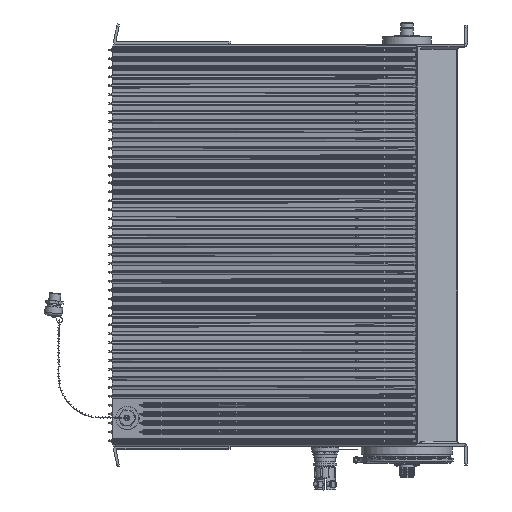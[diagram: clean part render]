
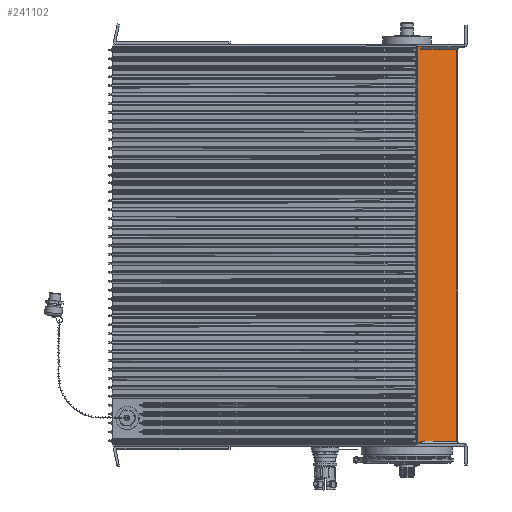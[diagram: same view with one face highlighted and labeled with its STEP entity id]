
A CAD part, top view. The second image highlights one B-rep face of the part: STEP entity #241102.
In plain terms, the highlighted planar face has unit normal (0.609, 0, 0.793).
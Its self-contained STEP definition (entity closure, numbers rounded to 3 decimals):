
#24600=ORIENTED_EDGE('',*,*,#66720,.T.);
#24601=ORIENTED_EDGE('',*,*,#66721,.F.);
#24602=ORIENTED_EDGE('',*,*,#66722,.T.);
#24603=ORIENTED_EDGE('',*,*,#57932,.T.);
#24604=ORIENTED_EDGE('',*,*,#66697,.T.);
#24605=ORIENTED_EDGE('',*,*,#66723,.T.);
#24606=ORIENTED_EDGE('',*,*,#57949,.T.);
#24607=ORIENTED_EDGE('',*,*,#66644,.T.);
#24608=ORIENTED_EDGE('',*,*,#66648,.T.);
#24609=ORIENTED_EDGE('',*,*,#65992,.F.);
#24610=ORIENTED_EDGE('',*,*,#65995,.T.);
#24611=ORIENTED_EDGE('',*,*,#66673,.T.);
#57932=EDGE_CURVE('',#83230,#83229,#100379,.T.);
#57949=EDGE_CURVE('',#83247,#83246,#100393,.T.);
#65992=EDGE_CURVE('',#88620,#88621,#108261,.T.);
#65995=EDGE_CURVE('',#88620,#88622,#108264,.T.);
#66644=EDGE_CURVE('',#83246,#89232,#108727,.T.);
#66648=EDGE_CURVE('',#89232,#88621,#108731,.T.);
#66673=EDGE_CURVE('',#88622,#89249,#108754,.T.);
#66697=EDGE_CURVE('',#83229,#89264,#108771,.T.);
#66720=EDGE_CURVE('',#89249,#89274,#108787,.T.);
#66721=EDGE_CURVE('',#89275,#89274,#108788,.T.);
#66722=EDGE_CURVE('',#89275,#83230,#108789,.T.);
#66723=EDGE_CURVE('',#89264,#83247,#108790,.T.);
#83229=VERTEX_POINT('',#304175);
#83230=VERTEX_POINT('',#304177);
#83246=VERTEX_POINT('',#304210);
#83247=VERTEX_POINT('',#304212);
#88620=VERTEX_POINT('',#320676);
#88621=VERTEX_POINT('',#320678);
#88622=VERTEX_POINT('',#320682);
#89232=VERTEX_POINT('',#321972);
#89249=VERTEX_POINT('',#322031);
#89264=VERTEX_POINT('',#322078);
#89274=VERTEX_POINT('',#322121);
#89275=VERTEX_POINT('',#322123);
#100379=LINE('',#304176,#121862);
#100393=LINE('',#304211,#121876);
#108261=LINE('',#320677,#129744);
#108264=LINE('',#320683,#129747);
#108727=LINE('',#321973,#130210);
#108731=LINE('',#321980,#130214);
#108754=LINE('',#322032,#130237);
#108771=LINE('',#322079,#130254);
#108787=LINE('',#322120,#130270);
#108788=LINE('',#322122,#130271);
#108789=LINE('',#322124,#130272);
#108790=LINE('',#322125,#130273);
#121862=VECTOR('',#259318,1000.);
#121876=VECTOR('',#259340,1000.);
#129744=VECTOR('',#273044,1000.);
#129747=VECTOR('',#273049,1000.);
#130210=VECTOR('',#273946,1000.);
#130214=VECTOR('',#273954,1000.);
#130237=VECTOR('',#274003,1000.);
#130254=VECTOR('',#274050,1000.);
#130270=VECTOR('',#274098,1000.);
#130271=VECTOR('',#274099,1000.);
#130272=VECTOR('',#274100,1000.);
#130273=VECTOR('',#274101,1000.);
#146225=EDGE_LOOP('',(#24600,#24601,#24602,#24603,#24604,#24605,#24606,
#24607,#24608,#24609,#24610,#24611));
#156830=FACE_BOUND('',#146225,.T.);
#166946=PLANE('',#251035);
#241102=ADVANCED_FACE('',(#156830),#166946,.T.);
#251035=AXIS2_PLACEMENT_3D('',#322119,#274096,#274097);
#259318=DIRECTION('',(-0.793,0.,0.609));
#259340=DIRECTION('',(0.793,0.,-0.609));
#273044=DIRECTION('',(0.,-1.,0.));
#273049=DIRECTION('',(0.793,0.,-0.609));
#273946=DIRECTION('',(0.,1.,0.));
#273954=DIRECTION('',(0.793,0.,-0.609));
#274003=DIRECTION('',(0.,1.,0.));
#274050=DIRECTION('',(0.,-1.,0.));
#274096=DIRECTION('',(0.609,0.,0.793));
#274097=DIRECTION('',(0.793,0.,-0.609));
#274098=DIRECTION('',(-0.793,0.,0.609));
#274099=DIRECTION('',(0.,-1.,0.));
#274100=DIRECTION('',(-0.793,0.,0.609));
#274101=DIRECTION('',(0.793,0.,-0.609));
#304175=CARTESIAN_POINT('',(-59.11,493.014,132.341));
#304176=CARTESIAN_POINT('',(-9.995,493.014,94.654));
#304177=CARTESIAN_POINT('',(-56.991,493.014,130.715));
#304210=CARTESIAN_POINT('',(-56.159,0.,130.077));
#304211=CARTESIAN_POINT('',(-9.995,0.,94.654));
#304212=CARTESIAN_POINT('',(-56.98,0.,130.706));
#320676=CARTESIAN_POINT('',(-54.575,3.175,128.861));
#320677=CARTESIAN_POINT('',(-54.575,0.,128.861));
#320678=CARTESIAN_POINT('',(-54.575,1.984,128.861));
#320682=CARTESIAN_POINT('',(-10.295,3.175,94.884));
#320683=CARTESIAN_POINT('',(-10.146,3.175,94.769));
#321972=CARTESIAN_POINT('',(-56.159,1.984,130.077));
#321973=CARTESIAN_POINT('',(-56.159,0.,130.077));
#321980=CARTESIAN_POINT('',(-10.146,1.984,94.769));
#322031=CARTESIAN_POINT('',(-10.295,489.839,94.884));
#322032=CARTESIAN_POINT('',(-10.295,0.,94.884));
#322078=CARTESIAN_POINT('',(-59.11,0.,132.341));
#322079=CARTESIAN_POINT('',(-59.11,493.014,132.341));
#322119=CARTESIAN_POINT('',(-10.146,0.,94.769));
#322120=CARTESIAN_POINT('',(-10.146,489.839,94.769));
#322121=CARTESIAN_POINT('',(-54.575,489.839,128.861));
#322122=CARTESIAN_POINT('',(-54.575,0.,128.861));
#322123=CARTESIAN_POINT('',(-54.575,493.014,128.861));
#322124=CARTESIAN_POINT('',(-9.995,493.014,94.654));
#322125=CARTESIAN_POINT('',(-9.995,0.,94.654));
